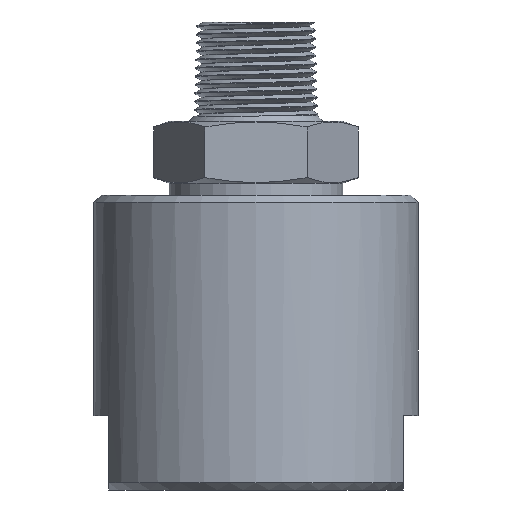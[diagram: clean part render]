
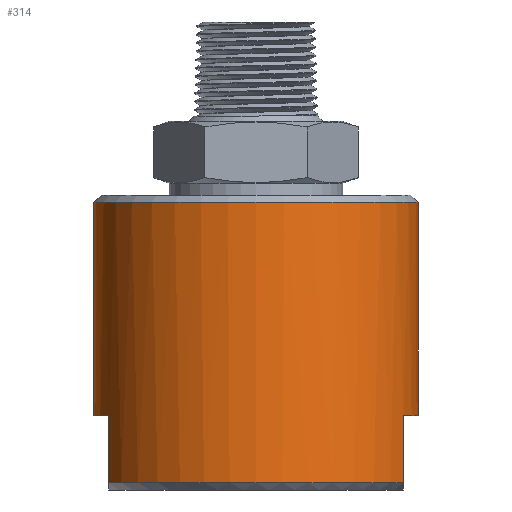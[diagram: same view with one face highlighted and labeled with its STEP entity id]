
A CAD part, left-side view. The second image highlights one B-rep face of the part: STEP entity #314.
In plain terms, the highlighted cylindrical face has radius 34.925 mm (diameter 69.85 mm), a partial arc.
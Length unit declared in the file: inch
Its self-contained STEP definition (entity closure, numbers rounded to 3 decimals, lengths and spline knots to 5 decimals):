
#21 = EDGE_CURVE ( 'NONE', #10979, #10977, #10744, .T. ) ;
#211 = EDGE_LOOP ( 'NONE', ( #7614, #7615, #7616, #7617, #7605, #7603, #7602, #7601, #7598, #7597 ) ) ;
#314 = ADVANCED_FACE ( 'NONE', ( #11656 ), #11655, .T. ) ;
#351 = EDGE_CURVE ( 'NONE', #7519, #11049, #6991, .T. ) ;
#377 = EDGE_CURVE ( 'NONE', #10977, #7562, #6207, .T. ) ;
#383 = EDGE_CURVE ( 'NONE', #7519, #7590, #6290, .T. ) ;
#418 = EDGE_CURVE ( 'NONE', #7590, #7562, #609, .T. ) ;
#425 = EDGE_CURVE ( 'NONE', #10979, #11002, #6613, .T. ) ;
#428 = EDGE_CURVE ( 'NONE', #11049, #10964, #6624, .T. ) ;
#429 = EDGE_CURVE ( 'NONE', #10985, #7550, #6633, .T. ) ;
#487 = VECTOR ( 'NONE', #6292, 39.37008 ) ;
#606 = AXIS2_PLACEMENT_3D ( 'NONE', #6600, #6601, #6602 ) ;
#609 = CIRCLE ( 'NONE', #606, 1.375 ) ;
#621 = VECTOR ( 'NONE', #6622, 39.37008 ) ;
#625 = VECTOR ( 'NONE', #6632, 39.37008 ) ;
#627 = VECTOR ( 'NONE', #6635, 39.37008 ) ;
#1111 = CARTESIAN_POINT ( 'NONE',  ( 0., 0., -3.337 ) ) ;
#1112 = DIRECTION ( 'NONE',  ( 0., 0., -1. ) ) ;
#1113 = DIRECTION ( 'NONE',  ( 1., 0., 0. ) ) ;
#3758 = EDGE_CURVE ( 'NONE', #11002, #10985, #12727, .T. ) ;
#4255 = CARTESIAN_POINT ( 'NONE',  ( 0., -1.375, -2.5575 ) ) ;
#4256 = CARTESIAN_POINT ( 'NONE',  ( -0.00856, -1.375, -2.5575 ) ) ;
#4304 = CARTESIAN_POINT ( 'NONE',  ( -0.01588, -1.37492, -2.55447 ) ) ;
#4305 = CARTESIAN_POINT ( 'NONE',  ( -0.02797, -1.37473, -2.54237 ) ) ;
#4306 = CARTESIAN_POINT ( 'NONE',  ( -0.031, -1.37465, -2.53507 ) ) ;
#4307 = CARTESIAN_POINT ( 'NONE',  ( -0.031, -1.37465, -2.51795 ) ) ;
#4308 = CARTESIAN_POINT ( 'NONE',  ( -0.02798, -1.37473, -2.51064 ) ) ;
#4309 = CARTESIAN_POINT ( 'NONE',  ( -0.01587, -1.37492, -2.49853 ) ) ;
#4310 = CARTESIAN_POINT ( 'NONE',  ( -0.00856, -1.375, -2.4955 ) ) ;
#4311 = CARTESIAN_POINT ( 'NONE',  ( 0., -1.375, -2.4955 ) ) ;
#4533 = CARTESIAN_POINT ( 'NONE',  ( -0.57282, 1.25, -3.337 ) ) ;
#4563 = CARTESIAN_POINT ( 'NONE',  ( 0., -1.375, -1.529 ) ) ;
#4575 = CARTESIAN_POINT ( 'NONE',  ( -0.57282, -1.25, -3.905 ) ) ;
#4603 = CARTESIAN_POINT ( 'NONE',  ( -0.57282, 1.25, -3.905 ) ) ;
#6207 = LINE ( 'NONE', #6208, #7066 ) ;
#6208 = CARTESIAN_POINT ( 'NONE',  ( -0.57282, -1.25, -3.337 ) ) ;
#6209 = DIRECTION ( 'NONE',  ( 0., 0., -1. ) ) ;
#6290 = LINE ( 'NONE', #6291, #487 ) ;
#6291 = CARTESIAN_POINT ( 'NONE',  ( -0.57282, 1.25, -3.337 ) ) ;
#6292 = DIRECTION ( 'NONE',  ( 0., 0., -1. ) ) ;
#6600 = CARTESIAN_POINT ( 'NONE',  ( 0., 0., -3.905 ) ) ;
#6601 = DIRECTION ( 'NONE',  ( 0., 0., 1. ) ) ;
#6602 = DIRECTION ( 'NONE',  ( 0., -1., 0. ) ) ;
#6613 = LINE ( 'NONE', #6614, #621 ) ;
#6614 = CARTESIAN_POINT ( 'NONE',  ( 0., -1.375, -1.27532 ) ) ;
#6618 = CARTESIAN_POINT ( 'NONE',  ( 0., 1.375, -1.27532 ) ) ;
#6622 = DIRECTION ( 'NONE',  ( 0., 0., 1. ) ) ;
#6624 = LINE ( 'NONE', #6618, #625 ) ;
#6632 = DIRECTION ( 'NONE',  ( 0., 0., 1. ) ) ;
#6633 = LINE ( 'NONE', #6634, #627 ) ;
#6634 = CARTESIAN_POINT ( 'NONE',  ( 0., -1.375, -1.27532 ) ) ;
#6635 = DIRECTION ( 'NONE',  ( 0., 0., 1. ) ) ;
#6991 = CIRCLE ( 'NONE', #7135, 1.375 ) ;
#7066 = VECTOR ( 'NONE', #6209, 39.37008 ) ;
#7135 = AXIS2_PLACEMENT_3D ( 'NONE', #1111, #1112, #1113 ) ;
#7519 = VERTEX_POINT ( 'NONE', #4533 ) ;
#7550 = VERTEX_POINT ( 'NONE', #4563 ) ;
#7562 = VERTEX_POINT ( 'NONE', #4575 ) ;
#7590 = VERTEX_POINT ( 'NONE', #4603 ) ;
#7597 = ORIENTED_EDGE ( 'NONE', *, *, #9106, .T. ) ;
#7598 = ORIENTED_EDGE ( 'NONE', *, *, #429, .T. ) ;
#7601 = ORIENTED_EDGE ( 'NONE', *, *, #3758, .T. ) ;
#7602 = ORIENTED_EDGE ( 'NONE', *, *, #425, .T. ) ;
#7603 = ORIENTED_EDGE ( 'NONE', *, *, #21, .F. ) ;
#7605 = ORIENTED_EDGE ( 'NONE', *, *, #377, .F. ) ;
#7614 = ORIENTED_EDGE ( 'NONE', *, *, #428, .F. ) ;
#7615 = ORIENTED_EDGE ( 'NONE', *, *, #351, .F. ) ;
#7616 = ORIENTED_EDGE ( 'NONE', *, *, #383, .T. ) ;
#7617 = ORIENTED_EDGE ( 'NONE', *, *, #418, .T. ) ;
#7743 = AXIS2_PLACEMENT_3D ( 'NONE', #11657, #11654, #11659 ) ;
#9106 = EDGE_CURVE ( 'NONE', #7550, #10964, #11454, .T. ) ;
#10258 = CARTESIAN_POINT ( 'NONE',  ( 0., 0., -1.529 ) ) ;
#10259 = DIRECTION ( 'NONE',  ( 0., 0., -1. ) ) ;
#10260 = DIRECTION ( 'NONE',  ( 0., 1., 0. ) ) ;
#10286 = CARTESIAN_POINT ( 'NONE',  ( 0., 1.375, -1.529 ) ) ;
#10299 = CARTESIAN_POINT ( 'NONE',  ( -0.57282, -1.25, -3.337 ) ) ;
#10301 = CARTESIAN_POINT ( 'NONE',  ( 0., -1.375, -3.337 ) ) ;
#10307 = CARTESIAN_POINT ( 'NONE',  ( 0., -1.375, -2.4955 ) ) ;
#10324 = CARTESIAN_POINT ( 'NONE',  ( 0., -1.375, -2.5575 ) ) ;
#10371 = CARTESIAN_POINT ( 'NONE',  ( 0., 1.375, -3.337 ) ) ;
#10744 = CIRCLE ( 'NONE', #10870, 1.375 ) ;
#10870 = AXIS2_PLACEMENT_3D ( 'NONE', #12393, #12394, #12395 ) ;
#10964 = VERTEX_POINT ( 'NONE', #10286 ) ;
#10977 = VERTEX_POINT ( 'NONE', #10299 ) ;
#10979 = VERTEX_POINT ( 'NONE', #10301 ) ;
#10985 = VERTEX_POINT ( 'NONE', #10307 ) ;
#11002 = VERTEX_POINT ( 'NONE', #10324 ) ;
#11049 = VERTEX_POINT ( 'NONE', #10371 ) ;
#11454 = CIRCLE ( 'NONE', #11457, 1.375 ) ;
#11457 = AXIS2_PLACEMENT_3D ( 'NONE', #10258, #10259, #10260 ) ;
#11654 = DIRECTION ( 'NONE',  ( 0., 0., 1. ) ) ;
#11655 = CYLINDRICAL_SURFACE ( 'NONE', #7743, 1.375 ) ;
#11656 = FACE_OUTER_BOUND ( 'NONE', #211, .T. ) ;
#11657 = CARTESIAN_POINT ( 'NONE',  ( 0., 0., -1.27532 ) ) ;
#11659 = DIRECTION ( 'NONE',  ( 0., -1., 0. ) ) ;
#12393 = CARTESIAN_POINT ( 'NONE',  ( 0., 0., -3.337 ) ) ;
#12394 = DIRECTION ( 'NONE',  ( 0., 0., -1. ) ) ;
#12395 = DIRECTION ( 'NONE',  ( 1., 0., 0. ) ) ;
#12727 = B_SPLINE_CURVE_WITH_KNOTS ( 'NONE', 3,
 ( #4255, #4256, #4304, #4305, #4306, #4307, #4308, #4309, #4310, #4311 ),
 .UNSPECIFIED., .F., .F.,
 ( 4, 2, 2, 2, 4 ),
 ( 0., 0.25, 0.5, 0.75, 1. ),
 .UNSPECIFIED. ) ;
